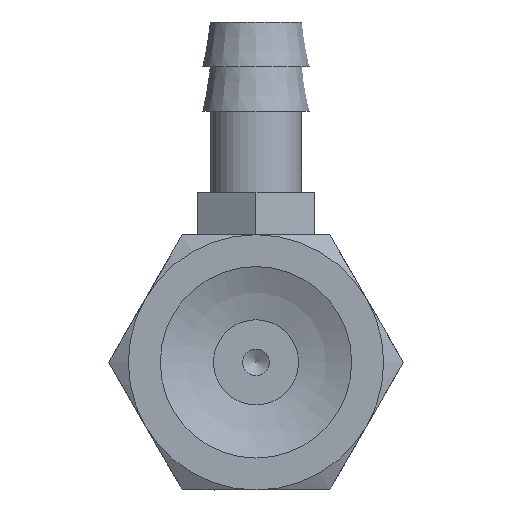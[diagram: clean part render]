
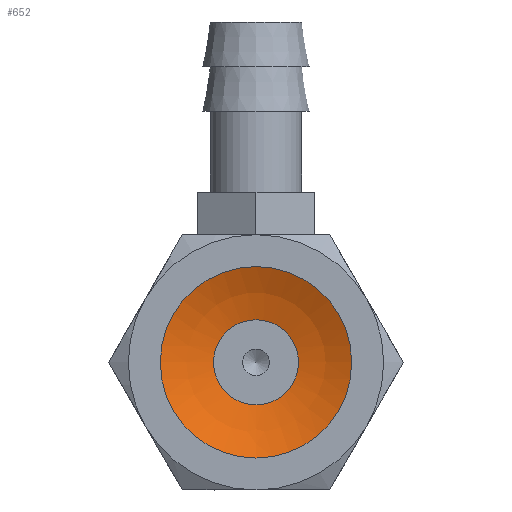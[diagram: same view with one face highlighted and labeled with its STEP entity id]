
A CAD part, front view. The second image highlights one B-rep face of the part: STEP entity #652.
In plain terms, the highlighted spherical face has radius 10.203 mm.
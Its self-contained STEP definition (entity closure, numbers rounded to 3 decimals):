
#652=ADVANCED_FACE('',(#1015,#1016),#1017,.F.);
#1015=FACE_OUTER_BOUND('',#1421,.T.);
#1016=FACE_OUTER_BOUND('',#1422,.T.);
#1017=SPHERICAL_SURFACE('',#1423,10.203);
#1421=EDGE_LOOP('',(#2416));
#1422=EDGE_LOOP('',(#2417));
#1423=AXIS2_PLACEMENT_3D('',#2418,#2419,#2420);
#2416=ORIENTED_EDGE('',*,*,#2823,.T.);
#2417=ORIENTED_EDGE('',*,*,#2812,.F.);
#2418=CARTESIAN_POINT('',(0.,-9.157,0.));
#2419=DIRECTION('',(0.0,-1.0,0.));
#2420=DIRECTION('',(1.0,0.0,0.0));
#2812=EDGE_CURVE('',#3270,#3270,#3271,.T.);
#2823=EDGE_CURVE('',#3292,#3292,#3293,.T.);
#3270=VERTEX_POINT('',#4380);
#3271=CIRCLE('',#4381,2.);
#3292=VERTEX_POINT('',#4402);
#3293=CIRCLE('',#4403,4.5);
#4380=CARTESIAN_POINT('',(0.0,0.848,-2.));
#4381=AXIS2_PLACEMENT_3D('',#4828,#4829,#4830);
#4402=CARTESIAN_POINT('',(0.0,0.,-4.5));
#4403=AXIS2_PLACEMENT_3D('',#4861,#4862,#4863);
#4828=CARTESIAN_POINT('',(0.0,0.848,0.0));
#4829=DIRECTION('',(0.0,-1.0,0.));
#4830=DIRECTION('',(0.0,0.,-1.0));
#4861=CARTESIAN_POINT('',(0.0,0.,0.0));
#4862=DIRECTION('',(0.0,-1.0,0.));
#4863=DIRECTION('',(0.0,0.,-1.0));
